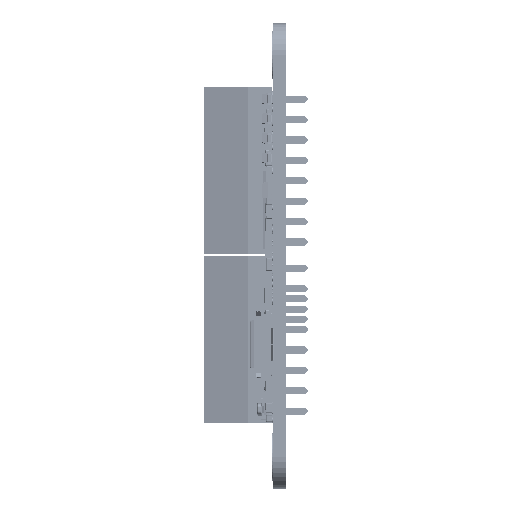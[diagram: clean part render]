
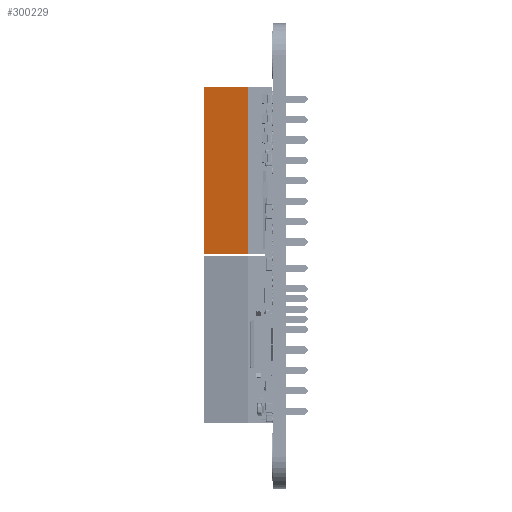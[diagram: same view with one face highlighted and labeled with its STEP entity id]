
A CAD part, left-side view. The second image highlights one B-rep face of the part: STEP entity #300229.
In plain terms, the highlighted planar face has unit normal (-0.977, 0.213, 0) as drawn and (0.977, 0.213, 0) by its records, which use the part's own axes.
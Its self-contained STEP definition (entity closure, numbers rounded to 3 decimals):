
#8616 = EDGE_LOOP ( 'NONE', ( #285531, #285539, #285548, #285556 ) ) ;
#148802 = AXIS2_PLACEMENT_3D ( 'NONE', #327194, #327195, #327197 ) ;
#187623 = CARTESIAN_POINT ( 'NONE',  ( 3.1, 3., -10.39 ) ) ;
#187627 = CARTESIAN_POINT ( 'NONE',  ( 3.1, 3., 10.39 ) ) ;
#187645 = CARTESIAN_POINT ( 'NONE',  ( 1.9, 8.5, 10.39 ) ) ;
#187647 = CARTESIAN_POINT ( 'NONE',  ( 1.9, 8.5, -10.39 ) ) ;
#235861 = LINE ( 'NONE', #253507, #235869 ) ;
#235869 = VECTOR ( 'NONE', #253510, 1000. ) ;
#236004 = LINE ( 'NONE', #253639, #236008 ) ;
#236008 = VECTOR ( 'NONE', #253641, 1000. ) ;
#236021 = LINE ( 'NONE', #253652, #236025 ) ;
#236025 = VECTOR ( 'NONE', #253654, 1000. ) ;
#236029 = LINE ( 'NONE', #253659, #236033 ) ;
#236033 = VECTOR ( 'NONE', #253661, 1000. ) ;
#253507 = CARTESIAN_POINT ( 'NONE',  ( 3.1, 3., 7.62 ) ) ;
#253510 = DIRECTION ( 'NONE',  ( 0., 0., 1. ) ) ;
#253639 = CARTESIAN_POINT ( 'NONE',  ( 1.9, 8.5, 7.62 ) ) ;
#253641 = DIRECTION ( 'NONE',  ( 0., 0., 1. ) ) ;
#253652 = CARTESIAN_POINT ( 'NONE',  ( 3.1, 3., 10.39 ) ) ;
#253654 = DIRECTION ( 'NONE',  ( -0.213, 0.977, 0. ) ) ;
#253659 = CARTESIAN_POINT ( 'NONE',  ( 1.9, 8.5, -10.39 ) ) ;
#253661 = DIRECTION ( 'NONE',  ( 0.213, -0.977, 0. ) ) ;
#280800 = VERTEX_POINT ( 'NONE', #187623 ) ;
#280804 = VERTEX_POINT ( 'NONE', #187627 ) ;
#280822 = VERTEX_POINT ( 'NONE', #187645 ) ;
#280826 = VERTEX_POINT ( 'NONE', #187647 ) ;
#285531 = ORIENTED_EDGE ( 'NONE', *, *, #293499, .T. ) ;
#285539 = ORIENTED_EDGE ( 'NONE', *, *, #293504, .F. ) ;
#285548 = ORIENTED_EDGE ( 'NONE', *, *, #293434, .F. ) ;
#285556 = ORIENTED_EDGE ( 'NONE', *, *, #293508, .F. ) ;
#293434 = EDGE_CURVE ( 'NONE', #280800, #280804, #235861, .T. ) ;
#293499 = EDGE_CURVE ( 'NONE', #280826, #280822, #236004, .T. ) ;
#293504 = EDGE_CURVE ( 'NONE', #280804, #280822, #236021, .T. ) ;
#293508 = EDGE_CURVE ( 'NONE', #280826, #280800, #236029, .T. ) ;
#300229 = ADVANCED_FACE ( 'NONE', ( #344328 ), #327193, .T. ) ;
#327193 = PLANE ( 'NONE',  #148802 ) ;
#327194 = CARTESIAN_POINT ( 'NONE',  ( 3.1, 3., 7.62 ) ) ;
#327195 = DIRECTION ( 'NONE',  ( 0.977, 0.213, 0. ) ) ;
#327197 = DIRECTION ( 'NONE',  ( -0.213, 0.977, 0. ) ) ;
#344328 = FACE_OUTER_BOUND ( 'NONE', #8616, .T. ) ;
